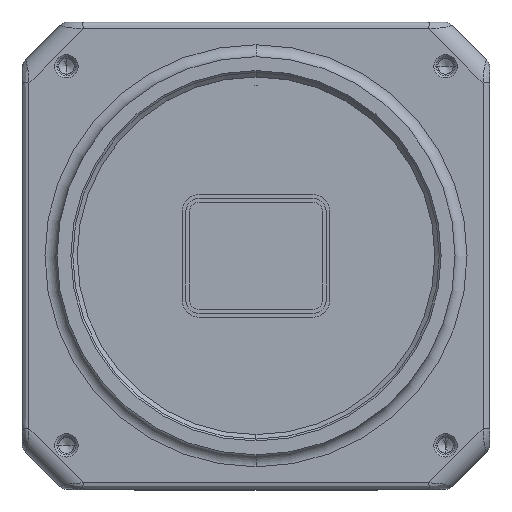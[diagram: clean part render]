
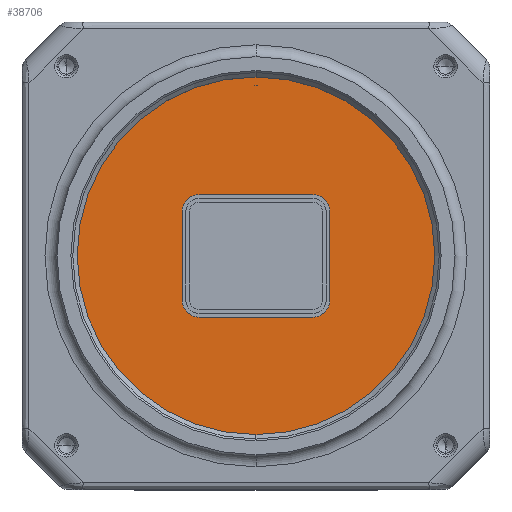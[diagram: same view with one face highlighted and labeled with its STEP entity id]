
A CAD part, top view. The second image highlights one B-rep face of the part: STEP entity #38706.
In plain terms, the highlighted planar face has unit normal (0, 0, 1).
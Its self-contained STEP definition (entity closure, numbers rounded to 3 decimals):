
#10216=CARTESIAN_POINT('',(0.,0.,5.));
#10217=DIRECTION('',(0.,0.,-1.));
#10218=DIRECTION('',(0.,-1.,0.));
#10219=AXIS2_PLACEMENT_3D('',#10216,#10217,#10218);
#10221=CARTESIAN_POINT('',(0.,0.,5.));
#10222=DIRECTION('',(0.,0.,-1.));
#10223=DIRECTION('',(0.,1.,0.));
#10224=AXIS2_PLACEMENT_3D('',#10221,#10222,#10223);
#10226=CARTESIAN_POINT('',(-9.,7.,5.));
#10227=DIRECTION('',(0.,0.,1.));
#10228=DIRECTION('',(0.,1.,0.));
#10229=AXIS2_PLACEMENT_3D('',#10226,#10227,#10228);
#10231=CARTESIAN_POINT('',(-9.,-7.,5.));
#10232=DIRECTION('',(0.,0.,1.));
#10233=DIRECTION('',(-1.,0.,0.));
#10234=AXIS2_PLACEMENT_3D('',#10231,#10232,#10233);
#10236=CARTESIAN_POINT('',(9.,-7.,5.));
#10237=DIRECTION('',(0.,0.,1.));
#10238=DIRECTION('',(0.,-1.,0.));
#10239=AXIS2_PLACEMENT_3D('',#10236,#10237,#10238);
#10241=CARTESIAN_POINT('',(9.,7.,5.));
#10242=DIRECTION('',(0.,0.,1.));
#10243=DIRECTION('',(1.,0.,0.));
#10244=AXIS2_PLACEMENT_3D('',#10241,#10242,#10243);
#10246=DIRECTION('',(1.,0.,0.));
#10247=VECTOR('',#10246,18.);
#10248=CARTESIAN_POINT('',(-9.,9.7,5.));
#10249=LINE('',#10248,#10247);
#10254=DIRECTION('',(0.,-1.,0.));
#10255=VECTOR('',#10254,14.);
#10256=CARTESIAN_POINT('',(11.7,7.,5.));
#10257=LINE('',#10256,#10255);
#10266=DIRECTION('',(-1.,0.,0.));
#10267=VECTOR('',#10266,18.);
#10268=CARTESIAN_POINT('',(9.,-9.7,5.));
#10269=LINE('',#10268,#10267);
#10278=DIRECTION('',(0.,1.,0.));
#10279=VECTOR('',#10278,14.);
#10280=CARTESIAN_POINT('',(-11.7,-7.,5.));
#10281=LINE('',#10280,#10279);
#20218=CARTESIAN_POINT('',(0.,-28.3,5.));
#20219=VERTEX_POINT('',#20218);
#20220=CARTESIAN_POINT('',(0.,28.3,5.));
#20221=VERTEX_POINT('',#20220);
#20222=CARTESIAN_POINT('',(-9.,9.7,5.));
#20223=CARTESIAN_POINT('',(-11.7,7.,5.));
#20224=VERTEX_POINT('',#20222);
#20225=VERTEX_POINT('',#20223);
#20226=CARTESIAN_POINT('',(-11.7,-7.,5.));
#20227=CARTESIAN_POINT('',(-9.,-9.7,5.));
#20228=VERTEX_POINT('',#20226);
#20229=VERTEX_POINT('',#20227);
#20230=CARTESIAN_POINT('',(9.,-9.7,5.));
#20231=CARTESIAN_POINT('',(11.7,-7.,5.));
#20232=VERTEX_POINT('',#20230);
#20233=VERTEX_POINT('',#20231);
#20234=CARTESIAN_POINT('',(11.7,7.,5.));
#20235=CARTESIAN_POINT('',(9.,9.7,5.));
#20236=VERTEX_POINT('',#20234);
#20237=VERTEX_POINT('',#20235);
#38679=CARTESIAN_POINT('',(0.,0.,5.));
#38680=DIRECTION('',(0.,0.,1.));
#38681=DIRECTION('',(0.,1.,0.));
#38682=AXIS2_PLACEMENT_3D('',#38679,#38680,#38681);
#38683=PLANE('',#38682);
#38684=ORIENTED_EDGE('',*,*,#38645,.T.);
#38685=ORIENTED_EDGE('',*,*,#38662,.T.);
#38686=EDGE_LOOP('',(#38684,#38685));
#38687=FACE_OUTER_BOUND('',#38686,.F.);
#38689=ORIENTED_EDGE('',*,*,#38688,.F.);
#38691=ORIENTED_EDGE('',*,*,#38690,.T.);
#38693=ORIENTED_EDGE('',*,*,#38692,.F.);
#38695=ORIENTED_EDGE('',*,*,#38694,.T.);
#38697=ORIENTED_EDGE('',*,*,#38696,.F.);
#38699=ORIENTED_EDGE('',*,*,#38698,.T.);
#38701=ORIENTED_EDGE('',*,*,#38700,.F.);
#38703=ORIENTED_EDGE('',*,*,#38702,.T.);
#38704=EDGE_LOOP('',(#38689,#38691,#38693,#38695,#38697,#38699,#38701,#38703));
#38705=FACE_BOUND('',#38704,.F.);
#38706=ADVANCED_FACE('',(#38687,#38705),#38683,.T.);
#10220=CIRCLE('',#10219,28.3);
#10225=CIRCLE('',#10224,28.3);
#10230=CIRCLE('',#10229,2.7);
#10235=CIRCLE('',#10234,2.7);
#10240=CIRCLE('',#10239,2.7);
#10245=CIRCLE('',#10244,2.7);
#38645=EDGE_CURVE('',#20219,#20221,#10220,.T.);
#38662=EDGE_CURVE('',#20221,#20219,#10225,.T.);
#38688=EDGE_CURVE('',#20224,#20237,#10249,.T.);
#38690=EDGE_CURVE('',#20224,#20225,#10230,.T.);
#38692=EDGE_CURVE('',#20228,#20225,#10281,.T.);
#38694=EDGE_CURVE('',#20228,#20229,#10235,.T.);
#38696=EDGE_CURVE('',#20232,#20229,#10269,.T.);
#38698=EDGE_CURVE('',#20232,#20233,#10240,.T.);
#38700=EDGE_CURVE('',#20236,#20233,#10257,.T.);
#38702=EDGE_CURVE('',#20236,#20237,#10245,.T.);
